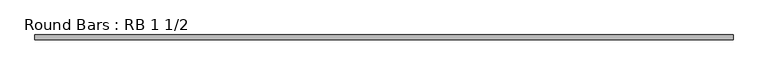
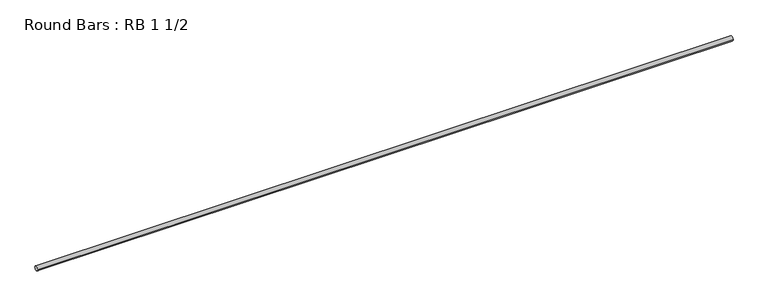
"""IFC4 building model written with IfcOpenShell, lengths in millimetres: member geometry, Round Bars : RB 1 1/2."""

from ifc_helpers import new_model, si_unit, point, frame, origin, origin_2d, place, context, project, spatial, circle_curve, trimmed, segment, composite_curve, outline, extrude, source, transform, mapped, element, save


def round_bars_rb_1_1_2_333c5343(model_context):
    return source(origin(), model_context, "Body", "SweptSolid", [
        extrude(outline(composite_curve([segment(trimmed(circle_curve(origin_2d(), 19.05), [point((19.05, 0.0))], [point((-19.05, 0.0))], False, "CARTESIAN"), True, "CONTINUOUS"), segment(trimmed(circle_curve(origin_2d(), 19.05), [point((-19.05, 0.0))], [point((19.05, 0.0))], False, "CARTESIAN"), True, "CONTINUOUS")], self_intersect=False)), frame((-2828.820267, 0.0, 0.0), z_axis=(1.0, 0.0, 0.0), x_axis=(0.0, 1.0, 0.0)), (0.0, 0.0, 1.0), 5657.640534),
    ])


if __name__ == "__main__":
    model = new_model("IFC4")
    model_context = context("Model", 3, world=origin())
    ifc_project = project(units=[si_unit("LENGTHUNIT", "METRE", prefix="MILLI")], contexts=[model_context])
    site = spatial("IfcSite", under=ifc_project)
    building = spatial("IfcBuilding", under=site)
    placement = place(None, origin())
    round_bars_rb_1_1_2_shape = round_bars_rb_1_1_2_333c5343(model_context)
    element("IfcMember", 1, ObjectType="Round Bars : RB 1 1/2", at=placement, inside=building, context=model_context, shape_type="MappedRepresentation", body=[
        mapped(round_bars_rb_1_1_2_shape, transform((0.0, 0.0, 0.0), x_axis=(1.0, 0.0, 0.0), y_axis=(0.0, 1.0, 0.0), z_axis=(0.0, 0.0, 1.0))),
    ])
    save(model, "model.ifc")
